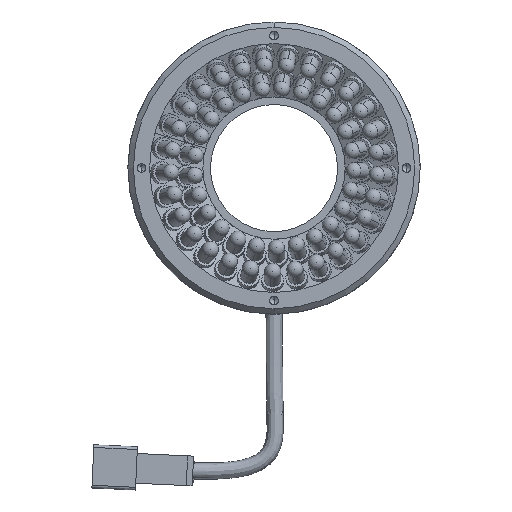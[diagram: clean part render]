
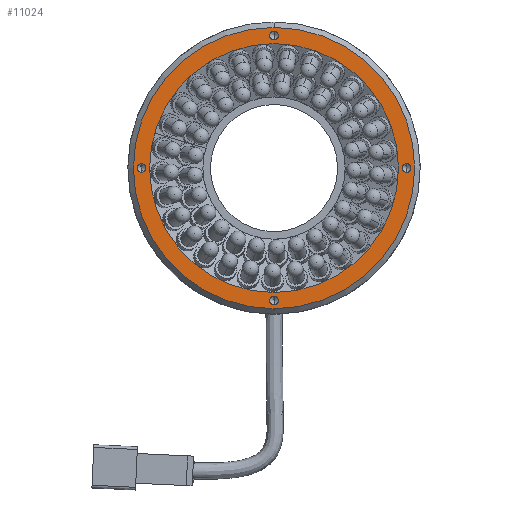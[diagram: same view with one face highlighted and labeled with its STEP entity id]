
A CAD part, front view. The second image highlights one B-rep face of the part: STEP entity #11024.
In plain terms, the highlighted planar face has unit normal (0, -1, 0).
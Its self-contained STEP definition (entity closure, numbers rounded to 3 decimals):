
#34 = AXIS2_PLACEMENT_3D ( 'NONE', #769, #11983, #2396 ) ;
#242 = AXIS2_PLACEMENT_3D ( 'NONE', #7517, #18642, #9131 ) ;
#317 = AXIS2_PLACEMENT_3D ( 'NONE', #2373, #13568, #4003 ) ;
#516 = CARTESIAN_POINT ( 'NONE',  ( 0., 0., 24.5 ) ) ;
#689 = CARTESIAN_POINT ( 'NONE',  ( -24.5, 0., 0.8 ) ) ;
#769 = CARTESIAN_POINT ( 'NONE',  ( 0., 0., 0. ) ) ;
#881 = EDGE_CURVE ( 'NONE', #7480, #10988, #17858, .T. ) ;
#933 = CARTESIAN_POINT ( 'NONE',  ( 0., 0., 0. ) ) ;
#1064 = DIRECTION ( 'NONE',  ( 0., 0., -1. ) ) ;
#1373 = CIRCLE ( 'NONE', #317, 0.8 ) ;
#1508 = DIRECTION ( 'NONE',  ( 0., -1., 0. ) ) ;
#1634 = DIRECTION ( 'NONE',  ( 0., 0., -1. ) ) ;
#1818 = FACE_BOUND ( 'NONE', #17507, .T. ) ;
#1846 = VERTEX_POINT ( 'NONE', #8634 ) ;
#1977 = CARTESIAN_POINT ( 'NONE',  ( 0., 0., -25.3 ) ) ;
#2088 = CIRCLE ( 'NONE', #11728, 0.8 ) ;
#2146 = DIRECTION ( 'NONE',  ( 0., 0., -1. ) ) ;
#2373 = CARTESIAN_POINT ( 'NONE',  ( 0., 0., -24.5 ) ) ;
#2396 = DIRECTION ( 'NONE',  ( 0., 0., 1. ) ) ;
#2414 = AXIS2_PLACEMENT_3D ( 'NONE', #2926, #14130, #4572 ) ;
#2542 = EDGE_CURVE ( 'NONE', #14188, #10541, #9369, .T. ) ;
#2545 = VERTEX_POINT ( 'NONE', #19174 ) ;
#2572 = DIRECTION ( 'NONE',  ( 0., 0., -1. ) ) ;
#2837 = FACE_OUTER_BOUND ( 'NONE', #8470, .T. ) ;
#2926 = CARTESIAN_POINT ( 'NONE',  ( -24.5, 0., 0. ) ) ;
#2961 = CARTESIAN_POINT ( 'NONE',  ( 0., 0., 23.7 ) ) ;
#3006 = ORIENTED_EDGE ( 'NONE', *, *, #14727, .F. ) ;
#3116 = VERTEX_POINT ( 'NONE', #4408 ) ;
#4003 = DIRECTION ( 'NONE',  ( 0., 0., -1. ) ) ;
#4408 = CARTESIAN_POINT ( 'NONE',  ( 24.5, 0., -0.8 ) ) ;
#4572 = DIRECTION ( 'NONE',  ( 0., 0., -1. ) ) ;
#5090 = CIRCLE ( 'NONE', #15400, 0.8 ) ;
#5112 = ORIENTED_EDGE ( 'NONE', *, *, #881, .F. ) ;
#5306 = CARTESIAN_POINT ( 'NONE',  ( -24.5, 0., 0. ) ) ;
#5560 = EDGE_CURVE ( 'NONE', #10541, #14188, #12122, .T. ) ;
#5658 = EDGE_LOOP ( 'NONE', ( #9847, #6936 ) ) ;
#6000 = CARTESIAN_POINT ( 'NONE',  ( 0., 0., 25.3 ) ) ;
#6125 = FACE_BOUND ( 'NONE', #9686, .T. ) ;
#6200 = CARTESIAN_POINT ( 'NONE',  ( 0., 0., -23.7 ) ) ;
#6438 = CARTESIAN_POINT ( 'NONE',  ( 0., 0., 23. ) ) ;
#6772 = AXIS2_PLACEMENT_3D ( 'NONE', #11113, #1508, #12711 ) ;
#6927 = DIRECTION ( 'NONE',  ( 0., 0., -1. ) ) ;
#6936 = ORIENTED_EDGE ( 'NONE', *, *, #2542, .F. ) ;
#7002 = AXIS2_PLACEMENT_3D ( 'NONE', #933, #12160, #2572 ) ;
#7289 = EDGE_LOOP ( 'NONE', ( #3006, #15541 ) ) ;
#7316 = AXIS2_PLACEMENT_3D ( 'NONE', #16020, #11233, #1634 ) ;
#7395 = DIRECTION ( 'NONE',  ( 0., -1., 0. ) ) ;
#7480 = VERTEX_POINT ( 'NONE', #1977 ) ;
#7517 = CARTESIAN_POINT ( 'NONE',  ( 0., 0., 0. ) ) ;
#7847 = CIRCLE ( 'NONE', #242, 26. ) ;
#7922 = DIRECTION ( 'NONE',  ( 0., -1., 0. ) ) ;
#7945 = CARTESIAN_POINT ( 'NONE',  ( -24.5, 0., -0.8 ) ) ;
#8470 = EDGE_LOOP ( 'NONE', ( #14490, #18456 ) ) ;
#8634 = CARTESIAN_POINT ( 'NONE',  ( 24.5, 0., 0.8 ) ) ;
#8965 = CIRCLE ( 'NONE', #34, 26. ) ;
#9047 = AXIS2_PLACEMENT_3D ( 'NONE', #516, #11739, #2146 ) ;
#9065 = CIRCLE ( 'NONE', #20213, 23. ) ;
#9131 = DIRECTION ( 'NONE',  ( 0., 0., 1. ) ) ;
#9369 = CIRCLE ( 'NONE', #7316, 0.8 ) ;
#9686 = EDGE_LOOP ( 'NONE', ( #10536, #16958 ) ) ;
#9847 = ORIENTED_EDGE ( 'NONE', *, *, #5560, .F. ) ;
#10536 = ORIENTED_EDGE ( 'NONE', *, *, #20218, .F. ) ;
#10541 = VERTEX_POINT ( 'NONE', #2961 ) ;
#10689 = DIRECTION ( 'NONE',  ( 0., -1., 0. ) ) ;
#10727 = EDGE_CURVE ( 'NONE', #20660, #19736, #2088, .T. ) ;
#10801 = AXIS2_PLACEMENT_3D ( 'NONE', #16935, #7395, #18508 ) ;
#10988 = VERTEX_POINT ( 'NONE', #6200 ) ;
#11024 = ADVANCED_FACE ( 'NONE', ( #2837, #14601, #1818, #6125, #18319, #14109 ), #15891, .F. ) ;
#11113 = CARTESIAN_POINT ( 'NONE',  ( 24.5, 0., 0. ) ) ;
#11233 = DIRECTION ( 'NONE',  ( 0., -1., 0. ) ) ;
#11728 = AXIS2_PLACEMENT_3D ( 'NONE', #5306, #16461, #6927 ) ;
#11739 = DIRECTION ( 'NONE',  ( 0., -1., 0. ) ) ;
#11983 = DIRECTION ( 'NONE',  ( 0., -1., 0. ) ) ;
#12122 = CIRCLE ( 'NONE', #9047, 0.8 ) ;
#12160 = DIRECTION ( 'NONE',  ( 0., -1., 0. ) ) ;
#12187 = CARTESIAN_POINT ( 'NONE',  ( 0., 0., -23. ) ) ;
#12711 = DIRECTION ( 'NONE',  ( 0., 0., -1. ) ) ;
#13222 = EDGE_CURVE ( 'NONE', #20333, #14134, #16369, .T. ) ;
#13568 = DIRECTION ( 'NONE',  ( 0., -1., 0. ) ) ;
#14109 = FACE_BOUND ( 'NONE', #7289, .T. ) ;
#14130 = DIRECTION ( 'NONE',  ( 0., -1., 0. ) ) ;
#14134 = VERTEX_POINT ( 'NONE', #12187 ) ;
#14188 = VERTEX_POINT ( 'NONE', #6000 ) ;
#14294 = CARTESIAN_POINT ( 'NONE',  ( -23., 0., 0. ) ) ;
#14490 = ORIENTED_EDGE ( 'NONE', *, *, #17494, .T. ) ;
#14601 = FACE_BOUND ( 'NONE', #19597, .T. ) ;
#14681 = EDGE_CURVE ( 'NONE', #16757, #2545, #7847, .T. ) ;
#14727 = EDGE_CURVE ( 'NONE', #19736, #20660, #15804, .T. ) ;
#14953 = ORIENTED_EDGE ( 'NONE', *, *, #17938, .F. ) ;
#15076 = EDGE_CURVE ( 'NONE', #14134, #20333, #9065, .T. ) ;
#15400 = AXIS2_PLACEMENT_3D ( 'NONE', #17441, #7922, #19037 ) ;
#15541 = ORIENTED_EDGE ( 'NONE', *, *, #10727, .F. ) ;
#15804 = CIRCLE ( 'NONE', #2414, 0.8 ) ;
#15891 = PLANE ( 'NONE',  #17736 ) ;
#15898 = ORIENTED_EDGE ( 'NONE', *, *, #13222, .F. ) ;
#15930 = CARTESIAN_POINT ( 'NONE',  ( 0., 0., -26. ) ) ;
#16020 = CARTESIAN_POINT ( 'NONE',  ( 0., 0., 24.5 ) ) ;
#16040 = ORIENTED_EDGE ( 'NONE', *, *, #15076, .F. ) ;
#16369 = CIRCLE ( 'NONE', #7002, 23. ) ;
#16461 = DIRECTION ( 'NONE',  ( 0., -1., 0. ) ) ;
#16738 = EDGE_CURVE ( 'NONE', #1846, #3116, #20178, .T. ) ;
#16757 = VERTEX_POINT ( 'NONE', #15930 ) ;
#16935 = CARTESIAN_POINT ( 'NONE',  ( 0., 0., -24.5 ) ) ;
#16958 = ORIENTED_EDGE ( 'NONE', *, *, #16738, .F. ) ;
#17441 = CARTESIAN_POINT ( 'NONE',  ( 24.5, 0., 0. ) ) ;
#17478 = DIRECTION ( 'NONE',  ( 0., 0., 1. ) ) ;
#17494 = EDGE_CURVE ( 'NONE', #2545, #16757, #8965, .T. ) ;
#17507 = EDGE_LOOP ( 'NONE', ( #16040, #15898 ) ) ;
#17736 = AXIS2_PLACEMENT_3D ( 'NONE', #14294, #18934, #17478 ) ;
#17858 = CIRCLE ( 'NONE', #10801, 0.8 ) ;
#17938 = EDGE_CURVE ( 'NONE', #10988, #7480, #1373, .T. ) ;
#18319 = FACE_BOUND ( 'NONE', #5658, .T. ) ;
#18456 = ORIENTED_EDGE ( 'NONE', *, *, #14681, .T. ) ;
#18508 = DIRECTION ( 'NONE',  ( 0., 0., -1. ) ) ;
#18642 = DIRECTION ( 'NONE',  ( 0., -1., 0. ) ) ;
#18934 = DIRECTION ( 'NONE',  ( 0., 1., 0. ) ) ;
#19037 = DIRECTION ( 'NONE',  ( 0., 0., -1. ) ) ;
#19174 = CARTESIAN_POINT ( 'NONE',  ( 0., 0., 26. ) ) ;
#19597 = EDGE_LOOP ( 'NONE', ( #5112, #14953 ) ) ;
#19736 = VERTEX_POINT ( 'NONE', #7945 ) ;
#20178 = CIRCLE ( 'NONE', #6772, 0.8 ) ;
#20213 = AXIS2_PLACEMENT_3D ( 'NONE', #20216, #10689, #1064 ) ;
#20216 = CARTESIAN_POINT ( 'NONE',  ( 0., 0., 0. ) ) ;
#20218 = EDGE_CURVE ( 'NONE', #3116, #1846, #5090, .T. ) ;
#20333 = VERTEX_POINT ( 'NONE', #6438 ) ;
#20660 = VERTEX_POINT ( 'NONE', #689 ) ;
